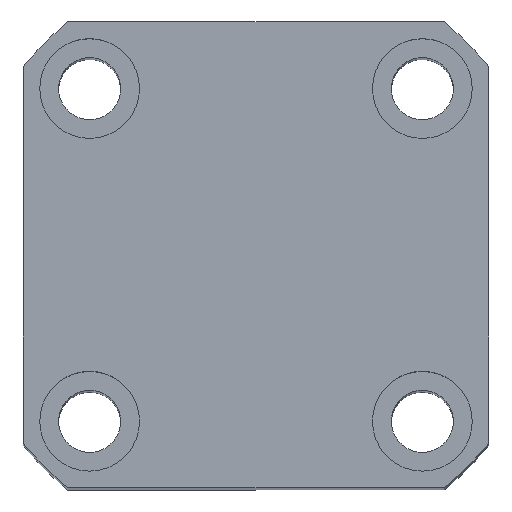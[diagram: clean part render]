
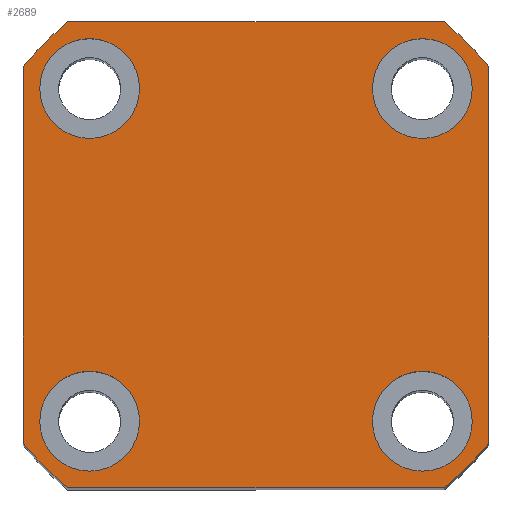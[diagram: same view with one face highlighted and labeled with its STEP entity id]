
A CAD part, top view. The second image highlights one B-rep face of the part: STEP entity #2689.
In plain terms, the highlighted planar face has unit normal (0, 0, 1).
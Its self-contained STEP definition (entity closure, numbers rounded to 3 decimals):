
#40 = CARTESIAN_POINT ( 'NONE',  ( 0., 0., 113. ) ) ;
#139 = CARTESIAN_POINT ( 'NONE',  ( 10.5, -14.998, 113. ) ) ;
#172 = DIRECTION ( 'NONE',  ( 0., 0., 1. ) ) ;
#378 = CARTESIAN_POINT ( 'NONE',  ( -21., -21., 113. ) ) ;
#396 = CARTESIAN_POINT ( 'NONE',  ( -21., 21., 113. ) ) ;
#567 = ORIENTED_EDGE ( 'NONE', *, *, #4666, .F. ) ;
#710 = CIRCLE ( 'NONE', #4213, 27. ) ;
#716 = CARTESIAN_POINT ( 'NONE',  ( -15., 15.002, 113. ) ) ;
#755 = CARTESIAN_POINT ( 'NONE',  ( 21., 21., 113. ) ) ;
#784 = CARTESIAN_POINT ( 'NONE',  ( 19.5, -14.998, 113. ) ) ;
#938 = ORIENTED_EDGE ( 'NONE', *, *, #5612, .F. ) ;
#971 = FACE_BOUND ( 'NONE', #4382, .T. ) ;
#1240 = CARTESIAN_POINT ( 'NONE',  ( 16.971, -21., 113. ) ) ;
#1329 = CARTESIAN_POINT ( 'NONE',  ( -10.5, 15.002, 113. ) ) ;
#1407 = LINE ( 'NONE', #396, #9819 ) ;
#1459 = CARTESIAN_POINT ( 'NONE',  ( 21., -16.971, 113. ) ) ;
#1518 = DIRECTION ( 'NONE',  ( 1., 0., 0. ) ) ;
#1552 = DIRECTION ( 'NONE',  ( 0., 0., 1. ) ) ;
#1566 = DIRECTION ( 'NONE',  ( 1., 0., 0. ) ) ;
#1588 = CARTESIAN_POINT ( 'NONE',  ( 0., 0., 113. ) ) ;
#1687 = EDGE_CURVE ( 'NONE', #10265, #10025, #4447, .T. ) ;
#1848 = CARTESIAN_POINT ( 'NONE',  ( -19.5, 15.002, 113. ) ) ;
#1879 = ORIENTED_EDGE ( 'NONE', *, *, #7015, .F. ) ;
#1897 = EDGE_CURVE ( 'NONE', #9509, #10142, #9563, .T. ) ;
#1938 = CARTESIAN_POINT ( 'NONE',  ( 15., 15., 113. ) ) ;
#2008 = VERTEX_POINT ( 'NONE', #139 ) ;
#2108 = DIRECTION ( 'NONE',  ( -1., 0., 0. ) ) ;
#2133 = DIRECTION ( 'NONE',  ( 0., 0., 1. ) ) ;
#2158 = ORIENTED_EDGE ( 'NONE', *, *, #9802, .T. ) ;
#2277 = CARTESIAN_POINT ( 'NONE',  ( -16.971, 21., 113. ) ) ;
#2293 = ORIENTED_EDGE ( 'NONE', *, *, #8586, .T. ) ;
#2374 = ORIENTED_EDGE ( 'NONE', *, *, #3111, .F. ) ;
#2394 = CARTESIAN_POINT ( 'NONE',  ( 21., 16.971, 113. ) ) ;
#2417 = CIRCLE ( 'NONE', #9796, 4.5 ) ;
#2483 = DIRECTION ( 'NONE',  ( 1., 0., 0. ) ) ;
#2508 = AXIS2_PLACEMENT_3D ( 'NONE', #4485, #4346, #4311 ) ;
#2527 = CARTESIAN_POINT ( 'NONE',  ( -19.5, -14.998, 113. ) ) ;
#2543 = CARTESIAN_POINT ( 'NONE',  ( 0., 0., 113. ) ) ;
#2631 = EDGE_CURVE ( 'NONE', #3266, #4043, #8030, .T. ) ;
#2684 = DIRECTION ( 'NONE',  ( 0., 0., 1. ) ) ;
#2689 = ADVANCED_FACE ( 'NONE', ( #5452, #971, #3525, #7279, #9427 ), #4520, .T. ) ;
#2727 = CARTESIAN_POINT ( 'NONE',  ( 0., 0., 113. ) ) ;
#2780 = EDGE_CURVE ( 'NONE', #5540, #6016, #710, .T. ) ;
#2805 = DIRECTION ( 'NONE',  ( 1., 0., 0. ) ) ;
#2807 = CARTESIAN_POINT ( 'NONE',  ( -10.5, -14.998, 113. ) ) ;
#2832 = ORIENTED_EDGE ( 'NONE', *, *, #9129, .T. ) ;
#2852 = CIRCLE ( 'NONE', #9539, 4.5 ) ;
#2853 = EDGE_LOOP ( 'NONE', ( #2158, #2293, #2832, #4794, #5279, #9135, #7877, #7759 ) ) ;
#3016 = VECTOR ( 'NONE', #6563, 1000. ) ;
#3111 = EDGE_CURVE ( 'NONE', #8852, #6486, #3654, .T. ) ;
#3219 = VERTEX_POINT ( 'NONE', #5921 ) ;
#3266 = VERTEX_POINT ( 'NONE', #1848 ) ;
#3307 = CARTESIAN_POINT ( 'NONE',  ( -21., 21., 113. ) ) ;
#3416 = DIRECTION ( 'NONE',  ( 1., 0., 0. ) ) ;
#3429 = AXIS2_PLACEMENT_3D ( 'NONE', #8411, #3618, #9230 ) ;
#3479 = AXIS2_PLACEMENT_3D ( 'NONE', #7029, #2133, #7827 ) ;
#3525 = FACE_BOUND ( 'NONE', #8159, .T. ) ;
#3618 = DIRECTION ( 'NONE',  ( 0., 0., 1. ) ) ;
#3654 = CIRCLE ( 'NONE', #7943, 4.5 ) ;
#3672 = AXIS2_PLACEMENT_3D ( 'NONE', #716, #6523, #1566 ) ;
#3742 = EDGE_LOOP ( 'NONE', ( #938, #1879 ) ) ;
#3988 = CARTESIAN_POINT ( 'NONE',  ( -15., -14.998, 113. ) ) ;
#4043 = VERTEX_POINT ( 'NONE', #1329 ) ;
#4213 = AXIS2_PLACEMENT_3D ( 'NONE', #40, #10397, #4332 ) ;
#4267 = VERTEX_POINT ( 'NONE', #784 ) ;
#4277 = LINE ( 'NONE', #3307, #4786 ) ;
#4311 = DIRECTION ( 'NONE',  ( 1., 0., 0. ) ) ;
#4314 = DIRECTION ( 'NONE',  ( 0., 0., 1. ) ) ;
#4332 = DIRECTION ( 'NONE',  ( 1., 0., 0. ) ) ;
#4346 = DIRECTION ( 'NONE',  ( 0., 0., 1. ) ) ;
#4382 = EDGE_LOOP ( 'NONE', ( #2374, #9460 ) ) ;
#4437 = ORIENTED_EDGE ( 'NONE', *, *, #2631, .F. ) ;
#4447 = CIRCLE ( 'NONE', #5817, 27. ) ;
#4485 = CARTESIAN_POINT ( 'NONE',  ( 0., 0., 113. ) ) ;
#4520 = PLANE ( 'NONE',  #2508 ) ;
#4666 = EDGE_CURVE ( 'NONE', #2008, #4267, #10534, .T. ) ;
#4786 = VECTOR ( 'NONE', #8929, 1000. ) ;
#4794 = ORIENTED_EDGE ( 'NONE', *, *, #2780, .T. ) ;
#4810 = DIRECTION ( 'NONE',  ( 1., 0., 0. ) ) ;
#4991 = EDGE_CURVE ( 'NONE', #6016, #9509, #4277, .T. ) ;
#4992 = CARTESIAN_POINT ( 'NONE',  ( -21., -16.971, 113. ) ) ;
#5181 = CARTESIAN_POINT ( 'NONE',  ( -21., 16.971, 113. ) ) ;
#5212 = CARTESIAN_POINT ( 'NONE',  ( 15., 15., 113. ) ) ;
#5279 = ORIENTED_EDGE ( 'NONE', *, *, #4991, .T. ) ;
#5452 = FACE_BOUND ( 'NONE', #8676, .T. ) ;
#5482 = CIRCLE ( 'NONE', #3429, 4.5 ) ;
#5512 = AXIS2_PLACEMENT_3D ( 'NONE', #9264, #9227, #9194 ) ;
#5540 = VERTEX_POINT ( 'NONE', #2277 ) ;
#5612 = EDGE_CURVE ( 'NONE', #10260, #3219, #2852, .T. ) ;
#5817 = AXIS2_PLACEMENT_3D ( 'NONE', #1588, #1552, #1518 ) ;
#5921 = CARTESIAN_POINT ( 'NONE',  ( 10.5, 15., 113. ) ) ;
#6001 = DIRECTION ( 'NONE',  ( 1., 0., 0. ) ) ;
#6016 = VERTEX_POINT ( 'NONE', #5181 ) ;
#6038 = ORIENTED_EDGE ( 'NONE', *, *, #9441, .F. ) ;
#6424 = AXIS2_PLACEMENT_3D ( 'NONE', #2727, #2684, #2483 ) ;
#6486 = VERTEX_POINT ( 'NONE', #2527 ) ;
#6523 = DIRECTION ( 'NONE',  ( 0., 0., 1. ) ) ;
#6563 = DIRECTION ( 'NONE',  ( 0., 1., 0. ) ) ;
#6689 = CIRCLE ( 'NONE', #3672, 4.5 ) ;
#6864 = VERTEX_POINT ( 'NONE', #7836 ) ;
#7015 = EDGE_CURVE ( 'NONE', #3219, #10260, #2417, .T. ) ;
#7029 = CARTESIAN_POINT ( 'NONE',  ( 15., -14.998, 113. ) ) ;
#7279 = FACE_BOUND ( 'NONE', #3742, .T. ) ;
#7421 = VECTOR ( 'NONE', #10179, 1000. ) ;
#7645 = DIRECTION ( 'NONE',  ( 0., 0., 1. ) ) ;
#7666 = LINE ( 'NONE', #378, #7421 ) ;
#7759 = ORIENTED_EDGE ( 'NONE', *, *, #1687, .T. ) ;
#7827 = DIRECTION ( 'NONE',  ( 1., 0., 0. ) ) ;
#7836 = CARTESIAN_POINT ( 'NONE',  ( 16.971, 21., 113. ) ) ;
#7877 = ORIENTED_EDGE ( 'NONE', *, *, #10242, .T. ) ;
#7943 = AXIS2_PLACEMENT_3D ( 'NONE', #3988, #9582, #4810 ) ;
#8030 = CIRCLE ( 'NONE', #5512, 4.5 ) ;
#8159 = EDGE_LOOP ( 'NONE', ( #9381, #567 ) ) ;
#8211 = DIRECTION ( 'NONE',  ( 0., 0., 1. ) ) ;
#8411 = CARTESIAN_POINT ( 'NONE',  ( -15., -14.998, 113. ) ) ;
#8449 = AXIS2_PLACEMENT_3D ( 'NONE', #2543, #8211, #3416 ) ;
#8486 = CIRCLE ( 'NONE', #8449, 27. ) ;
#8586 = EDGE_CURVE ( 'NONE', #9398, #6864, #8486, .T. ) ;
#8597 = CARTESIAN_POINT ( 'NONE',  ( 19.5, 15., 113. ) ) ;
#8652 = EDGE_CURVE ( 'NONE', #4267, #2008, #10455, .T. ) ;
#8676 = EDGE_LOOP ( 'NONE', ( #6038, #4437 ) ) ;
#8789 = EDGE_CURVE ( 'NONE', #6486, #8852, #5482, .T. ) ;
#8852 = VERTEX_POINT ( 'NONE', #2807 ) ;
#8929 = DIRECTION ( 'NONE',  ( 0., -1., 0. ) ) ;
#8961 = CARTESIAN_POINT ( 'NONE',  ( -16.971, -21., 113. ) ) ;
#9094 = CARTESIAN_POINT ( 'NONE',  ( 15., -14.998, 113. ) ) ;
#9129 = EDGE_CURVE ( 'NONE', #6864, #5540, #1407, .T. ) ;
#9135 = ORIENTED_EDGE ( 'NONE', *, *, #1897, .T. ) ;
#9194 = DIRECTION ( 'NONE',  ( 1., 0., 0. ) ) ;
#9227 = DIRECTION ( 'NONE',  ( 0., 0., 1. ) ) ;
#9230 = DIRECTION ( 'NONE',  ( 1., 0., 0. ) ) ;
#9264 = CARTESIAN_POINT ( 'NONE',  ( -15., 15.002, 113. ) ) ;
#9381 = ORIENTED_EDGE ( 'NONE', *, *, #8652, .F. ) ;
#9398 = VERTEX_POINT ( 'NONE', #2394 ) ;
#9427 = FACE_OUTER_BOUND ( 'NONE', #2853, .T. ) ;
#9437 = LINE ( 'NONE', #755, #3016 ) ;
#9441 = EDGE_CURVE ( 'NONE', #4043, #3266, #6689, .T. ) ;
#9460 = ORIENTED_EDGE ( 'NONE', *, *, #8789, .F. ) ;
#9509 = VERTEX_POINT ( 'NONE', #4992 ) ;
#9539 = AXIS2_PLACEMENT_3D ( 'NONE', #1938, #7645, #2805 ) ;
#9542 = AXIS2_PLACEMENT_3D ( 'NONE', #9094, #4314, #9892 ) ;
#9563 = CIRCLE ( 'NONE', #6424, 27. ) ;
#9582 = DIRECTION ( 'NONE',  ( 0., 0., 1. ) ) ;
#9796 = AXIS2_PLACEMENT_3D ( 'NONE', #5212, #172, #6001 ) ;
#9802 = EDGE_CURVE ( 'NONE', #10025, #9398, #9437, .T. ) ;
#9819 = VECTOR ( 'NONE', #2108, 1000. ) ;
#9892 = DIRECTION ( 'NONE',  ( 1., 0., 0. ) ) ;
#10025 = VERTEX_POINT ( 'NONE', #1459 ) ;
#10142 = VERTEX_POINT ( 'NONE', #8961 ) ;
#10179 = DIRECTION ( 'NONE',  ( 1., 0., 0. ) ) ;
#10242 = EDGE_CURVE ( 'NONE', #10142, #10265, #7666, .T. ) ;
#10260 = VERTEX_POINT ( 'NONE', #8597 ) ;
#10265 = VERTEX_POINT ( 'NONE', #1240 ) ;
#10397 = DIRECTION ( 'NONE',  ( 0., 0., 1. ) ) ;
#10455 = CIRCLE ( 'NONE', #9542, 4.5 ) ;
#10534 = CIRCLE ( 'NONE', #3479, 4.5 ) ;
